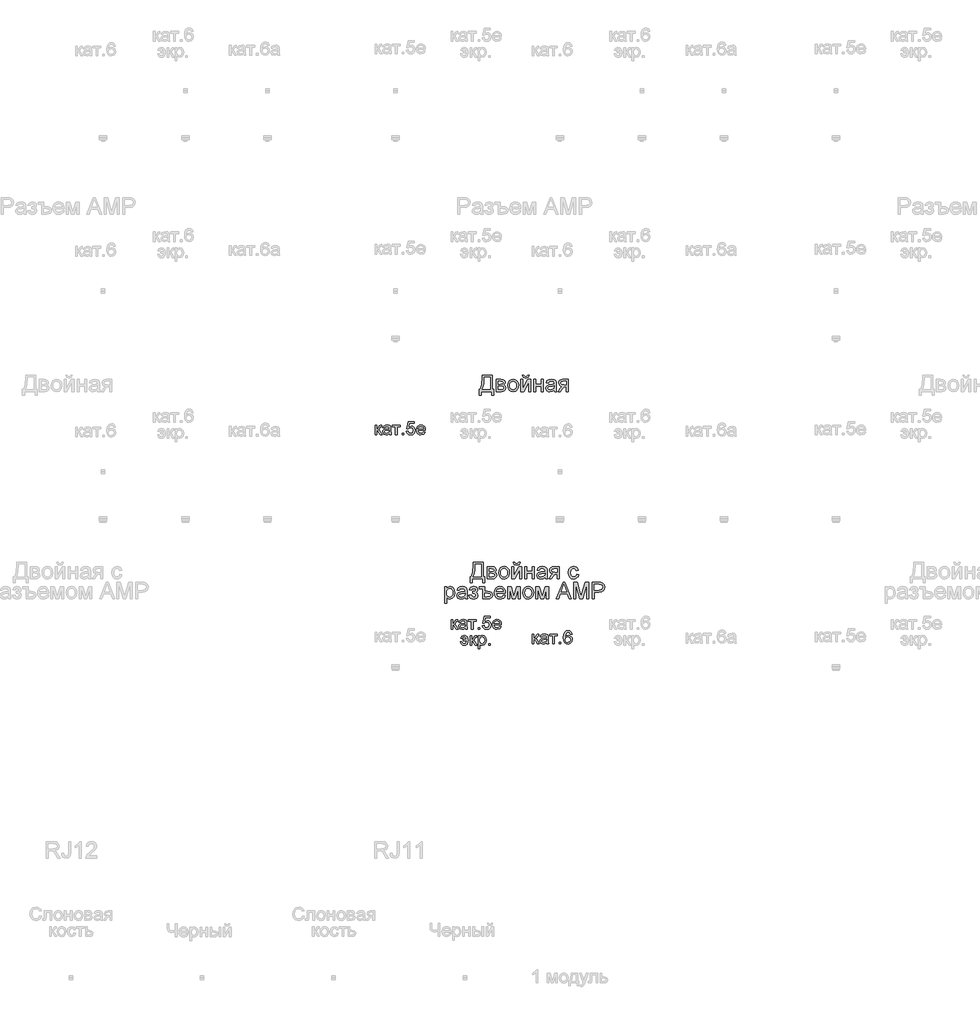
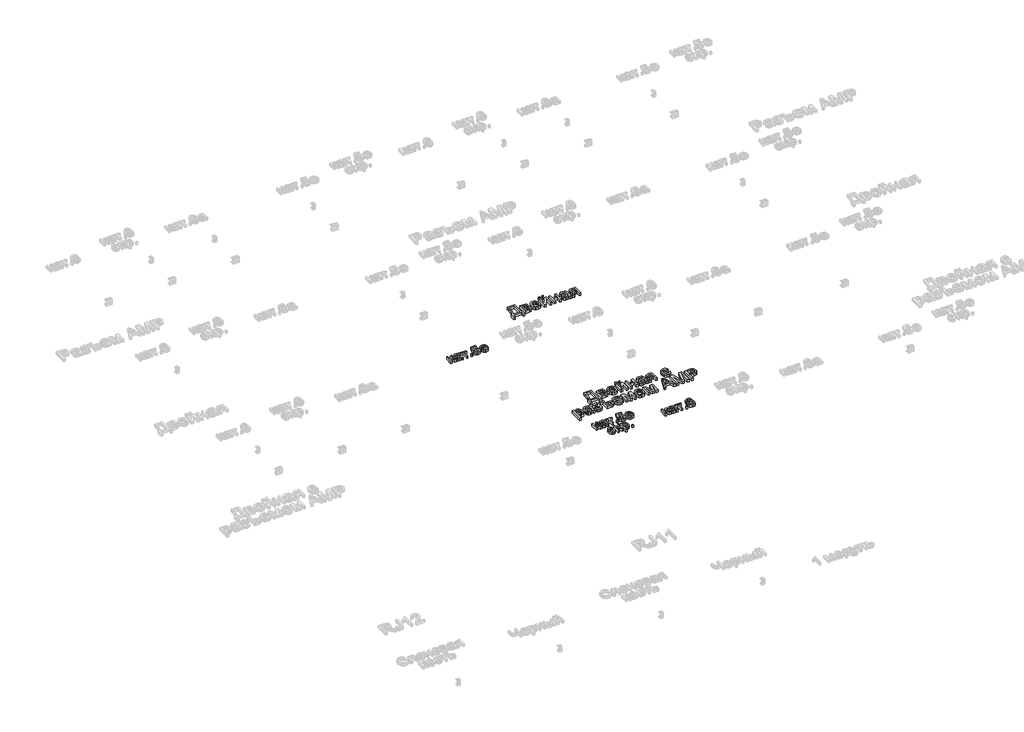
# One storey, part 25 of 47: 5 proxies.
"""IFC4 building model written with IfcOpenShell, lengths in millimetres."""

from ifc_helpers import new_model, si_unit, origin, origin_with_axes, place, context, project, spatial, polyline, outline, extrude, element, save

model = new_model("IFC4")

# Units and contexts
model_context = context("Model", 3, world=origin())
ifc_project = project(units=[si_unit("LENGTHUNIT", "METRE", prefix="MILLI")], contexts=[model_context])

# Site, building, storey
site = spatial("IfcSite", under=ifc_project)
building = spatial("IfcBuilding", under=site)
storey = spatial("IfcBuildingStorey", under=building, Name="Этаж 01", Elevation=0.0)

# Proxies
placement = place(None, origin())
element("IfcBuildingElementProxy", 1, Name="100 мм Arial", ObjectType="100 мм Arial", at=placement, inside=storey, context=model_context, shape_type="SweptSolid", body=[
    extrude(outline(polyline([(3314.2901237, -22050.4463281), (3373.9360579, -22050.4463281), (3373.9360579, -22138.3455994), (3383.353837, -22138.3455994), (3383.353837, -22174.4470859), (3370.7967982, -22174.4470859), (3370.7967982, -22150.9026382), (3306.4419745, -22150.9026382), (3306.4419745, -22174.4470859), (3293.8849357, -22174.4470859), (3293.8849357, -22138.3455994), (3301.733085, -22138.3455994), (3311.150864, -22110.9322594), (3314.2901237, -22064.9899296), (3314.2901237, -22050.4463281)]), holes=[polyline([(3361.3790191, -22063.0033668), (3326.8471625, -22063.0033668), (3326.8471625, -22068.0556129), (3324.296514, -22102.4648422), (3320.5195922, -22122.348864), (3314.2901237, -22138.3455994), (3361.3790191, -22138.3455994), (3361.3790191, -22063.0033668)])]), origin_with_axes(), (0.0, 0.0, 1.0), 20.0),
    extrude(outline(polyline([(3397.4805056, -22077.1300355), (3425.1452316, -22077.1300355), (3440.3142326, -22078.8100299), (3448.8490948, -22084.9659219), (3452.4175502, -22095.6958135), (3450.2593092, -22104.4146168), (3443.7600606, -22110.6318225), (3452.196821, -22117.4376394), (3455.5568099, -22129.2711769), (3453.4292257, -22138.8422401), (3448.3708482, -22145.580612), (3440.3632835, -22149.5721317), (3429.3881373, -22150.9026382), (3397.4805056, -22150.9026382), (3397.4805056, -22077.1300355)]), holes=[polyline([(3410.0375444, -22105.3833727), (3422.4474303, -22105.3833727), (3432.6868125, -22104.7457106), (3437.6654822, -22102.1950621), (3439.8605114, -22097.5842744), (3436.0100132, -22091.4283823), (3422.8398378, -22089.6870742), (3410.0375444, -22089.6870742), (3410.0375444, -22105.3833727)]), polyline([(3410.0375444, -22138.3455994), (3425.4395372, -22138.3455994), (3439.100222, -22136.0769938), (3442.9997711, -22128.2411073), (3440.8537928, -22122.1955799), (3435.2619865, -22118.6761754), (3424.2132639, -22117.9404114), (3410.0375444, -22117.9404114), (3410.0375444, -22138.3455994)])]), origin_with_axes(), (0.0, 0.0, 1.0), 20.0),
    extrude(outline(polyline([(3468.1138487, -22114.0163368), (3470.8300441, -22096.2292424), (3478.9786302, -22083.7273859), (3489.0463342, -22077.6021507), (3501.1006009, -22075.5604056), (3514.2922361, -22078.0466748), (3524.8289896, -22085.5054822), (3531.735974, -22097.3482168), (3534.0383022, -22112.9862672), (3529.9670748, -22135.3289671), (3518.1090118, -22147.971845), (3501.1006009, -22152.4722681), (3487.7495501, -22149.995196), (3477.2250594, -22142.5639797), (3470.3916513, -22130.4729248), (3468.1138487, -22114.0163368)]), holes=[polyline([(3480.6708874, -22113.9918114), (3482.1240213, -22125.3562993), (3486.4834229, -22133.4527689), (3493.0439852, -22138.2996142), (3501.1006009, -22139.9152293), (3509.1204284, -22138.2904171), (3515.6687279, -22133.4159807), (3520.0281295, -22125.2122122), (3521.4812634, -22113.5994039), (3520.0189325, -22102.5660097), (3515.6319397, -22094.5799048), (3509.0744431, -22089.7330595), (3501.1006009, -22088.1174444), (3493.0439852, -22089.7269281), (3486.4834229, -22094.5553793), (3482.1240213, -22102.6334548), (3480.6708874, -22113.9918114)])]), origin_with_axes(), (0.0, 0.0, 1.0), 20.0),
    extrude(outline(polyline([(3548.1649708, -22077.1300355), (3560.7220096, -22077.1300355), (3560.7220096, -22133.3914552), (3591.5750462, -22077.1300355), (3607.810905, -22077.1300355), (3607.810905, -22150.9026382), (3595.2538662, -22150.9026382), (3595.2538662, -22094.984575), (3564.5970333, -22150.9026382), (3548.1649708, -22150.9026382), (3548.1649708, -22077.1300355)])), origin_with_axes(), (0.0, 0.0, 1.0), 20.0),
    extrude(outline(polyline([(3588.9753468, -22050.4463281), (3598.3931259, -22050.4463281), (3592.2985475, -22064.4135812), (3578.7727528, -22069.2818862), (3564.1310494, -22064.4503694), (3557.5827499, -22050.4463281), (3567.000529, -22050.4463281), (3570.5321961, -22057.5219251), (3577.6445814, -22059.8641071), (3585.4436797, -22057.5955015), (3588.9753468, -22050.4463281)])), origin_with_axes(), (0.0, 0.0, 1.0), 20.0),
    extrude(outline(polyline([(3626.6464631, -22077.1300355), (3639.2035019, -22077.1300355), (3639.2035019, -22105.3833727), (3672.1657286, -22105.3833727), (3672.1657286, -22077.1300355), (3684.7227674, -22077.1300355), (3684.7227674, -22150.9026382), (3672.1657286, -22150.9026382), (3672.1657286, -22117.9404114), (3639.2035019, -22117.9404114), (3639.2035019, -22150.9026382), (3626.6464631, -22150.9026382), (3626.6464631, -22077.1300355)])), origin_with_axes(), (0.0, 0.0, 1.0), 20.0),
    extrude(outline(polyline([(3750.647221, -22141.4848591), (3738.4703269, -22149.995196), (3725.0181086, -22152.4722681), (3714.5242747, -22150.982346), (3706.7834244, -22146.5125797), (3702.0101555, -22139.7251569), (3700.4190659, -22131.2822651), (3702.8225616, -22121.3494513), (3709.1378692, -22114.1389642), (3717.9302488, -22110.0186858), (3728.7950304, -22108.1302249), (3750.5736446, -22103.8137428), (3750.647221, -22101.0178397), (3747.1891302, -22091.7472134), (3733.3077162, -22088.1174444), (3720.6035247, -22090.5332028), (3714.5457345, -22099.1048533), (3701.9886957, -22097.5352234), (3707.4210865, -22085.2724903), (3718.3594445, -22078.0865286), (3734.926397, -22075.5604056), (3750.1444489, -22077.792223), (3758.7406248, -22083.3962921), (3762.5911231, -22091.9188917), (3763.2042597, -22102.9063006), (3763.2042597, -22118.5290226), (3763.8419218, -22140.344425), (3766.3435194, -22150.9026382), (3753.7864806, -22150.9026382), (3750.647221, -22141.4848591)]), holes=[polyline([(3750.647221, -22116.3707816), (3730.3891858, -22120.2212798), (3719.5857178, -22122.2568935), (3714.6928873, -22125.5678315), (3712.9761046, -22130.3993484), (3716.7162383, -22137.1929025), (3727.6913845, -22139.9152293), (3740.395576, -22136.9108597), (3748.5870818, -22129.6390589), (3750.5736446, -22119.9269742), (3750.647221, -22116.3707816)])]), origin_with_axes(), (0.0, 0.0, 1.0), 20.0),
    extrude(outline(polyline([(3836.9768625, -22077.1300355), (3836.9768625, -22150.9026382), (3824.4198237, -22150.9026382), (3824.4198237, -22122.649301), (3817.5772186, -22122.649301), (3808.2575414, -22124.2434563), (3799.5019499, -22134.9610851), (3789.4955596, -22150.9026382), (3774.9764836, -22150.9026382), (3787.5825733, -22130.7427049), (3798.2756766, -22120.2948562), (3789.6917634, -22117.6645), (3783.6584987, -22112.6674362), (3778.9005582, -22098.4426657), (3780.5253703, -22089.8464898), (3785.3998068, -22083.0406728), (3793.3521892, -22078.6076948), (3804.2108394, -22077.1300355), (3836.9768625, -22077.1300355)]), holes=[polyline([(3824.4198237, -22089.6870742), (3807.8651339, -22089.6870742), (3794.4619666, -22092.593342), (3791.4575969, -22099.3991589), (3795.8844436, -22107.5048255), (3811.5684794, -22110.0922622), (3824.4198237, -22110.0922622), (3824.4198237, -22089.6870742)])]), origin_with_axes(), (0.0, 0.0, 1.0), 20.0),
])
element("IfcBuildingElementProxy", 2, Name="100 мм Arial", ObjectType="100 мм Arial", at=placement, inside=storey, context=model_context, shape_type="SweptSolid", body=[
    extrude(outline(polyline([(3259.3530791, -23190.4463281), (3318.9990133, -23190.4463281), (3318.9990133, -23278.3455994), (3328.4167924, -23278.3455994), (3328.4167924, -23314.4470859), (3315.8597536, -23314.4470859), (3315.8597536, -23290.9026382), (3251.5049299, -23290.9026382), (3251.5049299, -23314.4470859), (3238.9478911, -23314.4470859), (3238.9478911, -23278.3455994), (3246.7960404, -23278.3455994), (3256.2138194, -23250.9322594), (3259.3530791, -23204.9899296), (3259.3530791, -23190.4463281)]), holes=[polyline([(3306.4419745, -23203.0033668), (3271.9101179, -23203.0033668), (3271.9101179, -23208.0556129), (3269.3594694, -23242.4648422), (3265.5825476, -23262.348864), (3259.3530791, -23278.3455994), (3306.4419745, -23278.3455994), (3306.4419745, -23203.0033668)])]), origin_with_axes(), (0.0, 0.0, 1.0), 20.0),
    extrude(outline(polyline([(3342.543461, -23217.1300355), (3370.208187, -23217.1300355), (3385.3771879, -23218.8100299), (3393.9120502, -23224.9659219), (3397.4805056, -23235.6958135), (3395.3222645, -23244.4146168), (3388.823016, -23250.6318225), (3397.2597764, -23257.4376394), (3400.6197653, -23269.2711769), (3398.4921811, -23278.8422401), (3393.4338036, -23285.580612), (3385.4262389, -23289.5721317), (3374.4510927, -23290.9026382), (3342.543461, -23290.9026382), (3342.543461, -23217.1300355)]), holes=[polyline([(3355.1004997, -23245.3833727), (3367.5103857, -23245.3833727), (3377.7497679, -23244.7457106), (3382.7284376, -23242.1950621), (3384.9234668, -23237.5842744), (3381.0729686, -23231.4283823), (3367.9027932, -23229.6870742), (3355.1004997, -23229.6870742), (3355.1004997, -23245.3833727)]), polyline([(3355.1004997, -23278.3455994), (3370.5024926, -23278.3455994), (3384.1631774, -23276.0769938), (3388.0627265, -23268.2411073), (3385.9167482, -23262.1955799), (3380.3249419, -23258.6761754), (3369.2762193, -23257.9404114), (3355.1004997, -23257.9404114), (3355.1004997, -23278.3455994)])]), origin_with_axes(), (0.0, 0.0, 1.0), 20.0),
    extrude(outline(polyline([(3413.176804, -23254.0163368), (3415.8929994, -23236.2292424), (3424.0415856, -23223.7273859), (3434.1092896, -23217.6021507), (3446.1635563, -23215.5604056), (3459.3551915, -23218.0466748), (3469.891945, -23225.5054822), (3476.7989294, -23237.3482168), (3479.1012576, -23252.9862672), (3475.0300302, -23275.3289671), (3463.1719672, -23287.971845), (3446.1635563, -23292.4722681), (3432.8125055, -23289.995196), (3422.2880148, -23282.5639797), (3415.4546067, -23270.4729248), (3413.176804, -23254.0163368)]), holes=[polyline([(3425.7338428, -23253.9918114), (3427.1869767, -23265.3562993), (3431.5463783, -23273.4527689), (3438.1069406, -23278.2996142), (3446.1635563, -23279.9152293), (3454.1833838, -23278.2904171), (3460.7316833, -23273.4159807), (3465.0910849, -23265.2122122), (3466.5442188, -23253.5994039), (3465.0818879, -23242.5660097), (3460.6948951, -23234.5799048), (3454.1373985, -23229.7330595), (3446.1635563, -23228.1174444), (3438.1069406, -23229.7269281), (3431.5463783, -23234.5553793), (3427.1869767, -23242.6334548), (3425.7338428, -23253.9918114)])]), origin_with_axes(), (0.0, 0.0, 1.0), 20.0),
    extrude(outline(polyline([(3493.2279262, -23217.1300355), (3505.784965, -23217.1300355), (3505.784965, -23273.3914552), (3536.6380016, -23217.1300355), (3552.8738603, -23217.1300355), (3552.8738603, -23290.9026382), (3540.3168216, -23290.9026382), (3540.3168216, -23234.984575), (3509.6599886, -23290.9026382), (3493.2279262, -23290.9026382), (3493.2279262, -23217.1300355)])), origin_with_axes(), (0.0, 0.0, 1.0), 20.0),
    extrude(outline(polyline([(3534.0383022, -23190.4463281), (3543.4560813, -23190.4463281), (3537.3615029, -23204.4135812), (3523.8357082, -23209.2818862), (3509.1940048, -23204.4503694), (3502.6457053, -23190.4463281), (3512.0634843, -23190.4463281), (3515.5951515, -23197.5219251), (3522.7075367, -23199.8641071), (3530.506635, -23197.5955015), (3534.0383022, -23190.4463281)])), origin_with_axes(), (0.0, 0.0, 1.0), 20.0),
    extrude(outline(polyline([(3571.7094185, -23217.1300355), (3584.2664573, -23217.1300355), (3584.2664573, -23245.3833727), (3617.228684, -23245.3833727), (3617.228684, -23217.1300355), (3629.7857228, -23217.1300355), (3629.7857228, -23290.9026382), (3617.228684, -23290.9026382), (3617.228684, -23257.9404114), (3584.2664573, -23257.9404114), (3584.2664573, -23290.9026382), (3571.7094185, -23290.9026382), (3571.7094185, -23217.1300355)])), origin_with_axes(), (0.0, 0.0, 1.0), 20.0),
    extrude(outline(polyline([(3695.7101763, -23281.4848591), (3683.5332823, -23289.995196), (3670.081064, -23292.4722681), (3659.5872301, -23290.982346), (3651.8463798, -23286.5125797), (3647.0731109, -23279.7251569), (3645.4820213, -23271.2822651), (3647.885517, -23261.3494513), (3654.2008245, -23254.1389642), (3662.9932042, -23250.0186858), (3673.8579858, -23248.1302249), (3695.6365999, -23243.8137428), (3695.7101763, -23241.0178397), (3692.2520856, -23231.7472134), (3678.3706716, -23228.1174444), (3665.6664801, -23230.5332028), (3659.6086899, -23239.1048533), (3647.0516511, -23237.5352234), (3652.4840419, -23225.2724903), (3663.4223999, -23218.0865286), (3679.9893524, -23215.5604056), (3695.2074043, -23217.792223), (3703.8035802, -23223.3962921), (3707.6540784, -23231.9188917), (3708.2672151, -23242.9063006), (3708.2672151, -23258.5290226), (3708.9048772, -23280.344425), (3711.4064748, -23290.9026382), (3698.849436, -23290.9026382), (3695.7101763, -23281.4848591)]), holes=[polyline([(3695.7101763, -23256.3707816), (3675.4521411, -23260.2212798), (3664.6486732, -23262.2568935), (3659.7558427, -23265.5678315), (3658.03906, -23270.3993484), (3661.7791936, -23277.1929025), (3672.7543398, -23279.9152293), (3685.4585314, -23276.9108597), (3693.6500372, -23269.6390589), (3695.6365999, -23259.9269742), (3695.7101763, -23256.3707816)])]), origin_with_axes(), (0.0, 0.0, 1.0), 20.0),
    extrude(outline(polyline([(3782.0398179, -23217.1300355), (3782.0398179, -23290.9026382), (3769.4827791, -23290.9026382), (3769.4827791, -23262.649301), (3762.640174, -23262.649301), (3753.3204968, -23264.2434563), (3744.5649053, -23274.9610851), (3734.558515, -23290.9026382), (3720.039439, -23290.9026382), (3732.6455287, -23270.7427049), (3743.338632, -23260.2948562), (3734.7547188, -23257.6645), (3728.721454, -23252.6674362), (3723.9635136, -23238.4426657), (3725.5883257, -23229.8464898), (3730.4627621, -23223.0406728), (3738.4151446, -23218.6076948), (3749.2737948, -23217.1300355), (3782.0398179, -23217.1300355)]), holes=[polyline([(3769.4827791, -23229.6870742), (3752.9280893, -23229.6870742), (3739.524922, -23232.593342), (3736.5205523, -23239.3991589), (3740.947399, -23247.5048255), (3756.6314347, -23250.0922622), (3769.4827791, -23250.0922622), (3769.4827791, -23229.6870742)])]), origin_with_axes(), (0.0, 0.0, 1.0), 20.0),
    extrude(outline(polyline([(3887.2050176, -23264.2189308), (3899.7620563, -23265.7885607), (3896.261046, -23276.9568449), (3889.6820897, -23285.396671), (3880.6444553, -23290.7033688), (3869.767411, -23292.4722681), (3856.4102289, -23290.004393), (3845.9654459, -23282.6007679), (3839.2240083, -23270.586355), (3836.9768625, -23254.286117), (3840.815098, -23233.4272078), (3852.5137454, -23220.0240405), (3869.5957327, -23215.5604056), (3880.2060626, -23217.0932473), (3888.6888083, -23221.6917722), (3894.7741896, -23229.1107258), (3898.1924265, -23239.1048533), (3885.6353877, -23240.6744831), (3879.8105895, -23231.2689668), (3869.6938346, -23228.1174444), (3861.5789709, -23229.6686801), (3855.1379703, -23234.3223874), (3850.9349185, -23242.3299521), (3849.5339013, -23253.9427604), (3850.9042617, -23265.7119186), (3855.015343, -23273.7470745), (3861.3398476, -23278.3731906), (3869.3504781, -23279.9152293), (3881.1840156, -23276.0647311), (3887.2050176, -23264.2189308)])), origin_with_axes(), (0.0, 0.0, 1.0), 20.0),
    extrude(outline(polyline([(3084.3393513, -23441.1307933), (3084.3393513, -23339.1048533), (3096.8963901, -23339.1048533), (3096.8963901, -23351.4166374), (3105.5784051, -23341.0055769), (3117.3015781, -23337.5352234), (3133.2186057, -23342.3912658), (3143.6174034, -23356.076476), (3147.1245451, -23375.427069), (3143.1636823, -23395.7709433), (3131.6612386, -23409.6278318), (3115.7809991, -23414.4470859), (3104.8549039, -23411.2219871), (3096.8963901, -23403.0672695), (3096.8963901, -23441.1307933), (3084.3393513, -23441.1307933)]), holes=[polyline([(3096.8963901, -23376.5797659), (3098.2544878, -23387.8369549), (3102.3287809, -23395.7096296), (3108.3405858, -23400.3449428), (3115.511219, -23401.8900471), (3122.7983482, -23400.2897605), (3128.9634373, -23395.4889004), (3133.1664891, -23387.3280515), (3134.5675064, -23375.6477982), (3133.2002116, -23364.4519228), (3129.0983274, -23356.4688835), (3123.0957195, -23351.6864175), (3116.0262538, -23350.0922622), (3108.929197, -23351.7875851), (3102.6966628, -23356.8735537), (3098.3464583, -23365.1907524), (3096.8963901, -23376.5797659)])]), origin_with_axes(), (0.0, 0.0, 1.0), 20.0),
    extrude(outline(polyline([(3208.3401091, -23403.459677), (3196.1632151, -23411.9700138), (3182.7109968, -23414.4470859), (3172.2171629, -23412.9571638), (3164.4763126, -23408.4873976), (3159.7030437, -23401.6999748), (3158.1119541, -23393.257083), (3160.5154498, -23383.3242691), (3166.8307573, -23376.113782), (3175.623137, -23371.9935037), (3186.4879186, -23370.1050428), (3208.2665327, -23365.7885607), (3208.3401091, -23362.9926575), (3204.8820184, -23353.7220312), (3191.0006044, -23350.0922622), (3178.2964129, -23352.5080207), (3172.2386227, -23361.0796711), (3159.6815839, -23359.5100413), (3165.1139747, -23347.2473081), (3176.0523327, -23340.0613465), (3192.6192852, -23337.5352234), (3207.8373371, -23339.7670409), (3216.433513, -23345.3711099), (3220.2840112, -23353.8937095), (3220.8971479, -23364.8811184), (3220.8971479, -23380.5038405), (3221.53481, -23402.3192428), (3224.0364076, -23412.8774561), (3211.4793688, -23412.8774561), (3208.3401091, -23403.459677)]), holes=[polyline([(3208.3401091, -23378.3455994), (3188.0820739, -23382.1960977), (3177.278606, -23384.2317114), (3172.3857755, -23387.5426493), (3170.6689928, -23392.3741662), (3174.4091264, -23399.1677204), (3185.3842726, -23401.8900471), (3198.0884642, -23398.8856775), (3206.27997, -23391.6138767), (3208.2665327, -23381.9017921), (3208.3401091, -23378.3455994)])]), origin_with_axes(), (0.0, 0.0, 1.0), 20.0),
    extrude(outline(polyline([(3255.4290045, -23379.9152293), (3255.4290045, -23367.3581905), (3265.3372929, -23366.8676812), (3270.340488, -23364.255719), (3272.6949328, -23358.7988028), (3269.5434104, -23352.4589697), (3261.4132183, -23350.0922622), (3253.0132461, -23352.446707), (3247.5808553, -23359.5100413), (3233.4541867, -23357.9404114), (3242.8964912, -23342.6365204), (3260.137894, -23337.5352234), (3270.6347936, -23339.0895249), (3278.5810447, -23343.7524292), (3283.5842399, -23350.5735745), (3285.2519716, -23358.602599), (3282.8791327, -23366.4016973), (3275.7606161, -23372.4349621), (3284.0624865, -23380.2585858), (3286.8216014, -23391.5157749), (3285.0710963, -23400.75881), (3279.8195808, -23408.0827274), (3271.4226743, -23412.8559963), (3260.2359959, -23414.4470859), (3249.2945722, -23412.9755579), (3240.9221912, -23408.560974), (3235.1188527, -23401.2033341), (3231.8845568, -23390.9026382), (3246.0112254, -23389.3330084), (3251.6766082, -23398.6036346), (3261.4377438, -23401.8900471), (3270.6102682, -23398.7385247), (3274.2645627, -23390.681909), (3271.995957, -23384.0845586), (3267.1644402, -23380.5528914), (3257.8815511, -23379.8416529), (3255.4290045, -23379.9152293)])), origin_with_axes(), (0.0, 0.0, 1.0), 20.0),
    extrude(outline(polyline([(3296.2393805, -23339.1048533), (3329.2016073, -23339.1048533), (3329.2016073, -23367.3581905), (3344.7752784, -23367.3581905), (3359.0613626, -23369.0197909), (3368.8102354, -23374.0045919), (3374.4204359, -23381.39902), (3376.2905027, -23390.2895016), (3374.4694868, -23399.3669898), (3369.0064392, -23406.5866739), (3359.9871989, -23411.3047605), (3347.4976052, -23412.8774561), (3316.6445685, -23412.8774561), (3316.6445685, -23351.6618921), (3296.2393805, -23351.6618921), (3296.2393805, -23339.1048533)]), holes=[polyline([(3329.2016073, -23400.3204173), (3342.126528, -23400.3204173), (3358.8161079, -23397.9046589), (3363.7334639, -23390.1423488), (3359.5273464, -23382.5885051), (3343.7697343, -23379.9152293), (3329.2016073, -23379.9152293), (3329.2016073, -23400.3204173)])]), origin_with_axes(), (0.0, 0.0, 1.0), 20.0),
    extrude(outline(polyline([(3442.0678034, -23390.9026382), (3454.3795875, -23392.4722681), (3449.9435438, -23401.7490257), (3442.8648811, -23408.6836013), (3433.3030149, -23413.0062148), (3421.4173607, -23414.4470859), (3406.6836868, -23411.9608168), (3395.34679, -23404.5020093), (3388.1179088, -23392.5550415), (3385.7082817, -23376.6042913), (3388.1424343, -23360.1170466), (3395.4448919, -23347.7868684), (3406.6285045, -23340.0981347), (3420.7061222, -23337.5352234), (3434.3453472, -23340.0920033), (3445.2438513, -23347.7623429), (3452.389959, -23360.0679957), (3454.771995, -23376.5307149), (3454.6984186, -23379.9152293), (3398.2653205, -23379.9152293), (3400.43889, -23389.3146143), (3405.4880703, -23396.2246644), (3412.7751995, -23400.4737015), (3421.6626154, -23401.8900471), (3433.9743995, -23399.2658222), (3442.0678034, -23390.9026382)]), holes=[polyline([(3398.2653205, -23367.3581905), (3442.2149562, -23367.3581905), (3437.1872356, -23355.9783741), (3429.8663839, -23351.5637902), (3420.6570713, -23350.0922622), (3405.1937647, -23354.788889), (3400.3285254, -23360.2795278), (3398.2653205, -23367.3581905)])]), origin_with_axes(), (0.0, 0.0, 1.0), 20.0),
    extrude(outline(polyline([(3467.3290337, -23339.1048533), (3488.9359696, -23339.1048533), (3505.5887612, -23398.1621763), (3523.5414026, -23339.1048533), (3544.2408962, -23339.1048533), (3544.2408962, -23412.8774561), (3531.6838574, -23412.8774561), (3531.6838574, -23353.4767766), (3513.6331142, -23412.8774561), (3497.1520008, -23412.8774561), (3479.8860725, -23350.6318225), (3479.8860725, -23412.8774561), (3467.3290337, -23412.8774561), (3467.3290337, -23339.1048533)])), origin_with_axes(), (0.0, 0.0, 1.0), 20.0),
    extrude(outline(polyline([(3559.9371947, -23375.9911547), (3562.65339, -23358.2040602), (3570.8019762, -23345.7022037), (3580.8696802, -23339.5769685), (3592.9239469, -23337.5352234), (3606.1155821, -23340.0214926), (3616.6523356, -23347.4803001), (3623.55932, -23359.3230346), (3625.8616482, -23374.9610851), (3621.7904208, -23397.3037849), (3609.9323578, -23409.9466628), (3592.9239469, -23414.4470859), (3579.5728961, -23411.9700138), (3569.0484054, -23404.5387975), (3562.2149973, -23392.4477426), (3559.9371947, -23375.9911547)]), holes=[polyline([(3572.4942334, -23375.9666292), (3573.9473673, -23387.3311172), (3578.3067689, -23395.4275868), (3584.8673312, -23400.274432), (3592.9239469, -23401.8900471), (3600.9437744, -23400.265235), (3607.4920739, -23395.3907986), (3611.8514755, -23387.1870301), (3613.3046094, -23375.5742218), (3611.8422785, -23364.5408276), (3607.4552857, -23356.5547226), (3600.8977891, -23351.7078773), (3592.9239469, -23350.0922622), (3584.8673312, -23351.7017459), (3578.3067689, -23356.5301971), (3573.9473673, -23364.6082726), (3572.4942334, -23375.9666292)])]), origin_with_axes(), (0.0, 0.0, 1.0), 20.0),
    extrude(outline(polyline([(3639.9883168, -23339.1048533), (3661.5952527, -23339.1048533), (3678.2480443, -23398.1621763), (3696.2006857, -23339.1048533), (3716.9001793, -23339.1048533), (3716.9001793, -23412.8774561), (3704.3431405, -23412.8774561), (3704.3431405, -23353.4767766), (3686.2923973, -23412.8774561), (3669.8112839, -23412.8774561), (3652.5453556, -23350.6318225), (3652.5453556, -23412.8774561), (3639.9883168, -23412.8774561), (3639.9883168, -23339.1048533)])), origin_with_axes(), (0.0, 0.0, 1.0), 20.0),
    extrude(outline(polyline([(3764.847466, -23412.8774561), (3804.9466034, -23312.4211459), (3815.6397068, -23312.4211459), (3855.7388442, -23412.8774561), (3842.4705669, -23412.8774561), (3830.9681232, -23381.4848591), (3789.5936615, -23381.4848591), (3778.1157433, -23412.8774561), (3764.847466, -23412.8774561)]), holes=[polyline([(3794.2044492, -23368.9278204), (3826.381861, -23368.9278204), (3817.3319639, -23344.2306758), (3810.2931551, -23324.9781847), (3804.0391612, -23342.0724347), (3794.2044492, -23368.9278204)])]), origin_with_axes(), (0.0, 0.0, 1.0), 20.0),
    extrude(outline(polyline([(3869.1542743, -23412.8774561), (3869.1542743, -23312.4211459), (3890.7612102, -23312.4211459), (3911.313551, -23383.2261673), (3915.4583548, -23398.0150235), (3919.9465151, -23381.9998939), (3940.1554994, -23312.4211459), (3961.7624353, -23312.4211459), (3961.7624353, -23412.8774561), (3949.2053965, -23412.8774561), (3949.2053965, -23324.9781847), (3923.9686916, -23412.8774561), (3906.948018, -23412.8774561), (3881.7113131, -23324.9781847), (3881.7113131, -23412.8774561), (3869.1542743, -23412.8774561)])), origin_with_axes(), (0.0, 0.0, 1.0), 20.0),
    extrude(outline(polyline([(3983.7372531, -23412.8774561), (3983.7372531, -23312.4211459), (4020.966911, -23312.4211459), (4035.9764964, -23313.3776391), (4048.1779159, -23318.0742659), (4056.0873788, -23327.7863506), (4059.0794857, -23341.4838235), (4057.0592004, -23353.3234924), (4050.9983445, -23363.1888612), (4039.6645134, -23369.8475254), (4021.8253023, -23372.0670801), (3996.2942919, -23372.0670801), (3996.2942919, -23412.8774561), (3983.7372531, -23412.8774561)]), holes=[polyline([(3996.2942919, -23359.5100413), (4022.5610663, -23359.5100413), (4041.0532679, -23354.8992536), (4045.1551522, -23349.3503669), (4046.5224469, -23341.9252819), (4043.2973481, -23331.5264842), (4034.8237995, -23325.836576), (4022.2667607, -23324.9781847), (3996.2942919, -23324.9781847), (3996.2942919, -23359.5100413)])]), origin_with_axes(), (0.0, 0.0, 1.0), 20.0),
])
element("IfcBuildingElementProxy", 3, Name="80 мм Arial", ObjectType="80 мм Arial", at=placement, inside=storey, context=model_context, shape_type="SweptSolid", body=[
    extrude(outline(polyline([(2660.6064135, -22354.963684), (2670.6520445, -22354.963684), (2670.6520445, -22380.0777615), (2677.3818324, -22378.2726872), (2682.8951573, -22367.7561672), (2687.4765144, -22358.6817447), (2691.5183112, -22355.7288785), (2698.866141, -22354.963684), (2700.7889375, -22354.963684), (2700.7889375, -22365.0681761), (2698.081326, -22365.009315), (2693.1762328, -22366.0688151), (2689.7230471, -22372.6808809), (2685.6714401, -22379.8325069), (2679.9913421, -22383.3347434), (2686.3287226, -22387.2441028), (2692.5483808, -22395.4797544), (2703.3003453, -22413.9817662), (2691.8812881, -22413.9817662), (2681.3451478, -22395.8721618), (2676.0476471, -22388.2104062), (2670.6520445, -22386.3562809), (2670.6520445, -22413.9817662), (2660.6064135, -22413.9817662), (2660.6064135, -22354.963684)])), origin_with_axes(), (0.0, 0.0, 1.0), 20.0),
    extrude(outline(polyline([(2747.249981, -22406.4475429), (2737.5084657, -22413.2558124), (2726.7466911, -22415.2374701), (2712.1589437, -22410.4697194), (2707.0674569, -22398.2854677), (2708.9902535, -22390.3392166), (2714.0424995, -22384.570827), (2721.0764033, -22381.2746043), (2729.7682285, -22379.7638355), (2747.1911198, -22376.3106499), (2747.249981, -22374.0739274), (2744.4835084, -22366.6574263), (2733.3783772, -22363.7536111), (2723.2150239, -22365.6862179), (2718.3687918, -22372.5435383), (2708.3231608, -22371.2878344), (2712.6690734, -22361.4776478), (2721.4197598, -22355.7288785), (2734.6733218, -22353.7079801), (2746.8477633, -22355.4934341), (2753.7247041, -22359.9766893), (2756.8051026, -22366.7947689), (2757.295612, -22375.5846961), (2757.295612, -22388.0828737), (2757.8057417, -22405.5351956), (2759.8070197, -22413.9817662), (2749.7613887, -22413.9817662), (2747.249981, -22406.4475429)]), holes=[polyline([(2747.249981, -22386.3562809), (2731.0435528, -22389.4366795), (2722.4007785, -22391.0651704), (2718.486514, -22393.7139208), (2717.1130879, -22397.5791343), (2720.1051948, -22403.0139776), (2728.8853118, -22405.1918391), (2739.048665, -22402.7883434), (2745.6018696, -22396.9709027), (2747.1911198, -22389.201235), (2747.249981, -22386.3562809)])]), origin_with_axes(), (0.0, 0.0, 1.0), 20.0),
    extrude(outline(polyline([(2766.0855391, -22354.963684), (2813.8022864, -22354.963684), (2813.8022864, -22365.009315), (2794.9667283, -22365.009315), (2794.9667283, -22413.9817662), (2784.9210973, -22413.9817662), (2784.9210973, -22365.009315), (2766.0855391, -22365.009315), (2766.0855391, -22354.963684)])), origin_with_axes(), (0.0, 0.0, 1.0), 20.0),
    extrude(outline(polyline([(2825.1036213, -22413.9817662), (2825.1036213, -22403.9361352), (2835.1492523, -22403.9361352), (2835.1492523, -22413.9817662), (2825.1036213, -22413.9817662)])), origin_with_axes(), (0.0, 0.0, 1.0), 20.0),
    extrude(outline(polyline([(2851.4734027, -22392.6348003), (2861.5190338, -22391.3790964), (2866.58109, -22401.7288432), (2877.0779896, -22405.1918391), (2889.6742691, -22400.3750375), (2894.1673346, -22387.5923644), (2889.9587645, -22375.6631776), (2877.2349526, -22371.2878344), (2868.4155949, -22373.0340476), (2862.7747376, -22377.5663538), (2852.7291066, -22376.3106499), (2861.5190338, -22334.872422), (2900.4458539, -22334.872422), (2900.4458539, -22344.918053), (2869.6418682, -22344.918053), (2865.3450065, -22367.0498338), (2880.0406659, -22361.2422034), (2889.4265619, -22363.0423726), (2897.2183026, -22368.4428803), (2902.4642998, -22376.6736268), (2904.2129656, -22386.9645125), (2902.6384306, -22397.0101435), (2897.9148258, -22405.6038669), (2888.8698338, -22412.8290693), (2877.0387489, -22415.2374701), (2867.1721537, -22413.6899131), (2859.3117418, -22409.0472424), (2853.9234968, -22401.849018), (2851.4734027, -22392.6348003)])), origin_with_axes(), (0.0, 0.0, 1.0), 20.0),
    extrude(outline(polyline([(2956.8348062, -22396.4019119), (2966.6842334, -22397.6576158), (2957.4724683, -22410.6266824), (2940.314452, -22415.2374701), (2928.5275129, -22413.2484548), (2919.4579954, -22407.2814088), (2913.6748905, -22397.7238346), (2911.7471888, -22384.9632344), (2913.6945109, -22371.7734386), (2919.5364769, -22361.9092961), (2928.4833671, -22355.7583091), (2939.7454612, -22353.7079801), (2950.6568412, -22355.753404), (2959.3756445, -22361.8896757), (2965.0925307, -22371.7341979), (2966.9981594, -22384.9043733), (2966.9392983, -22387.6119848), (2921.7928198, -22387.6119848), (2927.5710197, -22400.6595329), (2940.5106558, -22405.1918391), (2950.360083, -22403.0924591), (2956.8348062, -22396.4019119)]), holes=[polyline([(2921.7928198, -22377.5663538), (2956.9525284, -22377.5663538), (2952.9303519, -22368.4625007), (2939.7062205, -22363.7536111), (2927.3355752, -22367.5109126), (2921.7928198, -22377.5663538)])]), origin_with_axes(), (0.0, 0.0, 1.0), 20.0),
])
element("IfcBuildingElementProxy", 4, Name="80 мм Arial", ObjectType="80 мм Arial", at=placement, inside=storey, context=model_context, shape_type="SweptSolid", body=[
    extrude(outline(polyline([(3123.2827356, -23538.8197599), (3133.3283666, -23538.8197599), (3133.3283666, -23563.9338374), (3140.0581546, -23562.1287631), (3145.5714794, -23551.6122431), (3150.1528365, -23542.5378206), (3154.1946334, -23539.5849544), (3161.5424631, -23538.8197599), (3163.4652597, -23538.8197599), (3163.4652597, -23548.924252), (3160.7576482, -23548.8653909), (3155.8525549, -23549.924891), (3152.3993693, -23556.5369568), (3148.3477622, -23563.6885828), (3142.6676642, -23567.1908193), (3149.0050447, -23571.1001787), (3155.224703, -23579.3358303), (3165.9766674, -23597.8378421), (3154.5576103, -23597.8378421), (3144.02147, -23579.7282377), (3138.7239692, -23572.0664821), (3133.3283666, -23570.2123568), (3133.3283666, -23597.8378421), (3123.2827356, -23597.8378421), (3123.2827356, -23538.8197599)])), origin_with_axes(), (0.0, 0.0, 1.0), 20.0),
    extrude(outline(polyline([(3209.9263031, -23590.3036188), (3200.1847879, -23597.1118883), (3189.4230133, -23599.093546), (3174.8352659, -23594.3257953), (3169.7437791, -23582.1415436), (3171.6665756, -23574.1952925), (3176.7188217, -23568.4269029), (3183.7527254, -23565.1306802), (3192.4445507, -23563.6199114), (3209.867442, -23560.1667258), (3209.9263031, -23557.9300033), (3207.1598305, -23550.5135022), (3196.0546994, -23547.609687), (3185.8913461, -23549.5422938), (3181.045114, -23556.3996142), (3170.9994829, -23555.1439103), (3175.3453956, -23545.3337237), (3184.096082, -23539.5849544), (3197.349644, -23537.564056), (3209.5240855, -23539.34951), (3216.4010262, -23543.8327652), (3219.4814248, -23550.6508448), (3219.9719341, -23559.440772), (3219.9719341, -23571.9389496), (3220.4820638, -23589.3912715), (3222.4833419, -23597.8378421), (3212.4377109, -23597.8378421), (3209.9263031, -23590.3036188)]), holes=[polyline([(3209.9263031, -23570.2123568), (3193.719875, -23573.2927554), (3185.0771006, -23574.9212463), (3181.1628362, -23577.5699967), (3179.7894101, -23581.4352102), (3182.781517, -23586.8700535), (3191.5616339, -23589.047915), (3201.7249872, -23586.6444193), (3208.2781918, -23580.8269786), (3209.867442, -23573.0573109), (3209.9263031, -23570.2123568)])]), origin_with_axes(), (0.0, 0.0, 1.0), 20.0),
    extrude(outline(polyline([(3228.7618613, -23538.8197599), (3276.4786086, -23538.8197599), (3276.4786086, -23548.8653909), (3257.6430504, -23548.8653909), (3257.6430504, -23597.8378421), (3247.5974194, -23597.8378421), (3247.5974194, -23548.8653909), (3228.7618613, -23548.8653909), (3228.7618613, -23538.8197599)])), origin_with_axes(), (0.0, 0.0, 1.0), 20.0),
    extrude(outline(polyline([(3287.7799435, -23597.8378421), (3287.7799435, -23587.7922111), (3297.8255745, -23587.7922111), (3297.8255745, -23597.8378421), (3287.7799435, -23597.8378421)])), origin_with_axes(), (0.0, 0.0, 1.0), 20.0),
    extrude(outline(polyline([(3314.1497249, -23576.4908762), (3324.1953559, -23575.2351723), (3329.2574122, -23585.5849191), (3339.7543118, -23589.047915), (3352.3505913, -23584.2311134), (3356.8436567, -23571.4484403), (3352.6350867, -23559.5192535), (3339.9112748, -23555.1439103), (3331.0919171, -23556.8901235), (3325.4510598, -23561.4224297), (3315.4054288, -23560.1667258), (3324.1953559, -23518.7284978), (3363.1221761, -23518.7284978), (3363.1221761, -23528.7741289), (3332.3181904, -23528.7741289), (3328.0213287, -23550.9059097), (3342.7169881, -23545.0982793), (3352.1028841, -23546.8984485), (3359.8946247, -23552.2989562), (3365.140622, -23560.5297027), (3366.8892877, -23570.8205884), (3365.3147528, -23580.8662194), (3360.591148, -23589.4599428), (3351.546156, -23596.6851452), (3339.715071, -23599.093546), (3329.8484759, -23597.545989), (3321.9880639, -23592.9033183), (3316.599819, -23585.7050939), (3314.1497249, -23576.4908762)])), origin_with_axes(), (0.0, 0.0, 1.0), 20.0),
    extrude(outline(polyline([(3419.5111283, -23580.2579878), (3429.3605556, -23581.5136917), (3420.1487904, -23594.4827583), (3402.9907742, -23599.093546), (3391.2038351, -23597.1045306), (3382.1343176, -23591.1374847), (3376.3512126, -23581.5799105), (3374.423511, -23568.8193103), (3376.370833, -23555.6295145), (3382.2127991, -23545.7653719), (3391.1596892, -23539.614385), (3402.4217834, -23537.564056), (3413.3331634, -23539.6094799), (3422.0519666, -23545.7457516), (3427.7688528, -23555.5902738), (3429.6744816, -23568.7604492), (3429.6156205, -23571.4680607), (3384.469142, -23571.4680607), (3390.2473419, -23584.5156088), (3403.1869779, -23589.047915), (3413.0364052, -23586.948535), (3419.5111283, -23580.2579878)]), holes=[polyline([(3384.469142, -23561.4224297), (3419.6288506, -23561.4224297), (3415.6066741, -23552.3185766), (3402.3825426, -23547.609687), (3390.0118974, -23551.3669885), (3384.469142, -23561.4224297)])]), origin_with_axes(), (0.0, 0.0, 1.0), 20.0),
    extrude(outline(polyline([(3198.6249682, -23659.0022839), (3217.4605264, -23659.0022839), (3212.91841, -23649.0253242), (3203.3730985, -23645.1895413), (3195.2306437, -23647.700949), (3191.090745, -23655.2351723), (3181.045114, -23653.9794684), (3187.9416751, -23640.4119804), (3202.764867, -23635.1439103), (3213.0189644, -23637.1942393), (3220.8646611, -23643.3452262), (3225.8457833, -23653.0867415), (3227.5061574, -23665.9086553), (3226.1351838, -23678.6717079), (3221.3944112, -23688.7075288), (3213.6468164, -23695.0350991), (3203.2553763, -23696.6734002), (3194.3477269, -23695.2043248), (3187.3236333, -23690.7970985), (3179.7894101, -23675.3264343), (3189.8350411, -23674.0707305), (3194.1613334, -23683.4885095), (3203.0984133, -23686.6277692), (3213.0459424, -23682.2328057), (3217.4605264, -23669.047915), (3198.6249682, -23669.047915), (3198.6249682, -23659.0022839)])), origin_with_axes(), (0.0, 0.0, 1.0), 20.0),
    extrude(outline(polyline([(3238.8074923, -23636.3996142), (3248.8531233, -23636.3996142), (3248.8531233, -23661.5136917), (3255.5829113, -23659.7086174), (3261.0962361, -23649.1920974), (3265.6775932, -23640.1176749), (3269.7193901, -23637.1648087), (3277.0672198, -23636.3996142), (3278.9900164, -23636.3996142), (3278.9900164, -23646.5041063), (3276.2824049, -23646.4452452), (3271.3773116, -23647.5047453), (3267.9241259, -23654.116811), (3263.8725189, -23661.268437), (3258.1924209, -23664.7706736), (3264.5298014, -23668.680033), (3270.7494597, -23676.9156846), (3281.5014241, -23695.4176964), (3270.082367, -23695.4176964), (3259.5462266, -23677.308092), (3254.2487259, -23669.6463363), (3248.8531233, -23667.7922111), (3248.8531233, -23695.4176964), (3238.8074923, -23695.4176964), (3238.8074923, -23636.3996142)])), origin_with_axes(), (0.0, 0.0, 1.0), 20.0),
    extrude(outline(polyline([(3287.7799435, -23718.0203662), (3287.7799435, -23636.3996142), (3297.8255745, -23636.3996142), (3297.8255745, -23646.2490414), (3304.7711866, -23637.9201931), (3314.1497249, -23635.1439103), (3326.883347, -23639.0287441), (3335.2023852, -23649.9769123), (3338.0080986, -23665.4573867), (3334.8394083, -23681.7324861), (3325.6374533, -23692.8179969), (3312.9332618, -23696.6734002), (3304.1923856, -23694.0933212), (3297.8255745, -23687.5695471), (3297.8255745, -23718.0203662), (3287.7799435, -23718.0203662)]), holes=[polyline([(3297.8255745, -23666.3795442), (3302.1714871, -23681.6834352), (3312.7174377, -23686.6277692), (3323.4792123, -23681.5068519), (3327.9624676, -23665.63397), (3323.5871244, -23650.2908383), (3313.1294655, -23645.1895413), (3302.4657927, -23650.6145744), (3297.8255745, -23666.3795442)])]), origin_with_axes(), (0.0, 0.0, 1.0), 20.0),
    extrude(outline(polyline([(3351.8208412, -23695.4176964), (3351.8208412, -23685.3720654), (3361.8664722, -23685.3720654), (3361.8664722, -23695.4176964), (3351.8208412, -23695.4176964)])), origin_with_axes(), (0.0, 0.0, 1.0), 20.0),
])
element("IfcBuildingElementProxy", 5, Name="80 мм Arial", ObjectType="80 мм Arial", at=placement, inside=storey, context=model_context, shape_type="SweptSolid", body=[
    extrude(outline(polyline([(3617.8748928, -23627.654338), (3627.9205238, -23627.654338), (3627.9205238, -23652.7684155), (3634.6503118, -23650.9633412), (3640.1636366, -23640.4468212), (3644.7449937, -23631.3723987), (3648.7867906, -23628.4195325), (3656.1346203, -23627.654338), (3658.0574169, -23627.654338), (3658.0574169, -23637.7588301), (3655.3498054, -23637.699969), (3650.4447121, -23638.7594692), (3646.9915264, -23645.3715349), (3642.9399194, -23652.5231609), (3637.2598214, -23656.0253975), (3643.5972019, -23659.9347568), (3649.8168602, -23668.1704084), (3660.5688246, -23686.6724202), (3649.1497675, -23686.6724202), (3638.6136271, -23668.5628159), (3633.3161264, -23660.9010602), (3627.9205238, -23659.0469349), (3627.9205238, -23686.6724202), (3617.8748928, -23686.6724202), (3617.8748928, -23627.654338)])), origin_with_axes(), (0.0, 0.0, 1.0), 20.0),
    extrude(outline(polyline([(3704.5184603, -23679.1381969), (3694.7769451, -23685.9464664), (3684.0151704, -23687.9281241), (3669.4274231, -23683.1603734), (3664.3359362, -23670.9761218), (3666.2587328, -23663.0298707), (3671.3109789, -23657.261481), (3678.3448826, -23653.9652583), (3687.0367079, -23652.4544896), (3704.4595992, -23649.0013039), (3704.5184603, -23646.7645814), (3701.7519877, -23639.3480804), (3690.6468565, -23636.4442651), (3680.4835033, -23638.3768719), (3675.6372711, -23645.2341923), (3665.5916401, -23643.9784884), (3669.9375528, -23634.1683019), (3678.6882391, -23628.4195325), (3691.9418012, -23626.3986341), (3704.1162427, -23628.1840881), (3710.9931834, -23632.6673433), (3714.073582, -23639.485423), (3714.5640913, -23648.2753501), (3714.5640913, -23660.7735278), (3715.074221, -23678.2258496), (3717.0754991, -23686.6724202), (3707.0298681, -23686.6724202), (3704.5184603, -23679.1381969)]), holes=[polyline([(3704.5184603, -23659.0469349), (3688.3120321, -23662.1273335), (3679.6692578, -23663.7558245), (3675.7549934, -23666.4045748), (3674.3815673, -23670.2697883), (3677.3736742, -23675.7046317), (3686.1537911, -23677.8824931), (3696.3171444, -23675.4789974), (3702.870349, -23669.6615568), (3704.4595992, -23661.891889), (3704.5184603, -23659.0469349)])]), origin_with_axes(), (0.0, 0.0, 1.0), 20.0),
    extrude(outline(polyline([(3723.3540185, -23627.654338), (3771.0707658, -23627.654338), (3771.0707658, -23637.699969), (3752.2352076, -23637.699969), (3752.2352076, -23686.6724202), (3742.1895766, -23686.6724202), (3742.1895766, -23637.699969), (3723.3540185, -23637.699969), (3723.3540185, -23627.654338)])), origin_with_axes(), (0.0, 0.0, 1.0), 20.0),
    extrude(outline(polyline([(3782.3721007, -23686.6724202), (3782.3721007, -23676.6267892), (3792.4177317, -23676.6267892), (3792.4177317, -23686.6724202), (3782.3721007, -23686.6724202)])), origin_with_axes(), (0.0, 0.0, 1.0), 20.0),
    extrude(outline(polyline([(3860.225741, -23627.654338), (3850.18011, -23628.9100419), (3846.3737576, -23620.5321426), (3836.3085063, -23616.3530031), (3827.2438939, -23618.7859294), (3820.3865735, -23627.919213), (3817.5318092, -23645.8228035), (3826.3904077, -23637.8078811), (3837.3680064, -23635.1885613), (3846.6484429, -23636.9789203), (3854.437731, -23642.3499974), (3859.7205164, -23650.5562185), (3861.4814449, -23660.8520092), (3858.1656019, -23674.7138028), (3849.0421284, -23684.5239894), (3835.876858, -23687.9281241), (3824.4798738, -23685.6717812), (3815.4029987, -23678.9027525), (3809.4653833, -23666.9539453), (3807.4861782, -23649.1582669), (3809.68366, -23629.1503914), (3816.2761053, -23615.4700863), (3825.2769515, -23608.5980506), (3836.9363582, -23606.3073721), (3845.7508108, -23607.724944), (3852.80924, -23611.9776599), (3860.225741, -23627.654338)]), holes=[polyline([(3817.5318092, -23660.6950463), (3819.8568234, -23669.3966817), (3826.0372409, -23675.7144418), (3835.0920431, -23677.8824931), (3846.9329383, -23673.3894276), (3851.4358139, -23661.1855556), (3846.9917994, -23649.5016234), (3834.6800153, -23645.2341923), (3822.5251942, -23649.5016234), (3817.5318092, -23660.6950463)])]), origin_with_axes(), (0.0, 0.0, 1.0), 20.0),
])

save(model, "model.ifc")
